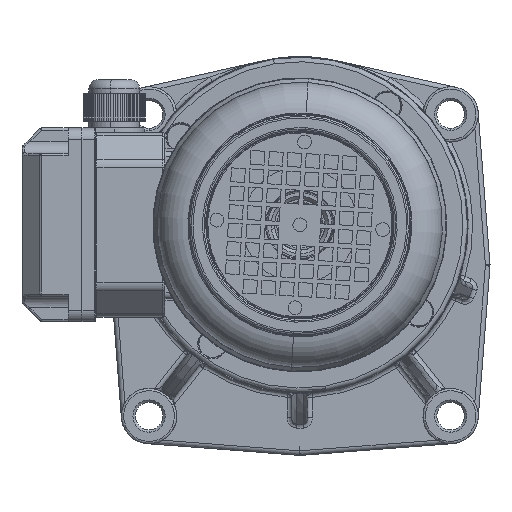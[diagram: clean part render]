
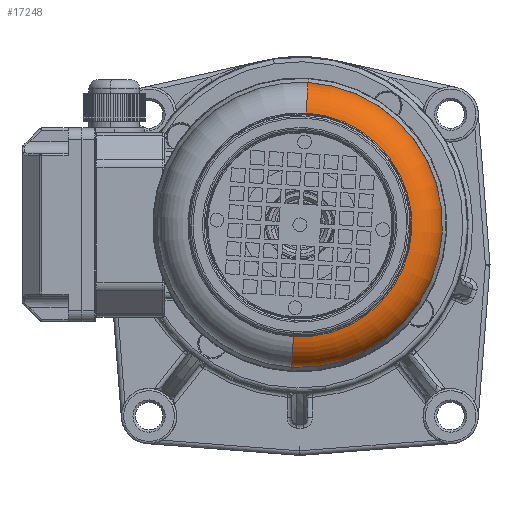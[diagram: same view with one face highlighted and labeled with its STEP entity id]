
A CAD part, front view. The second image highlights one B-rep face of the part: STEP entity #17248.
In plain terms, the highlighted toroidal (fillet/blend) face has major radius 46.75 mm and minor radius 15 mm.
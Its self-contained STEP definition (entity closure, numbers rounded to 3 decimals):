
#4262 = EDGE_CURVE ( 'NONE', #19937, #13596, #9568, .T. ) ;
#9568 = CIRCLE ( 'NONE', #38659, 48.591 ) ;
#10177 = DIRECTION ( 'NONE',  ( 0., 0., 1. ) ) ;
#12114 = EDGE_CURVE ( 'NONE', #86581, #90197, #98715, .T. ) ;
#13514 = DIRECTION ( 'NONE',  ( 0., 0., 1. ) ) ;
#13596 = VERTEX_POINT ( 'NONE', #74369 ) ;
#17248 = ADVANCED_FACE ( 'NONE', ( #46363 ), #51680, .T. ) ;
#19937 = VERTEX_POINT ( 'NONE', #21737 ) ;
#21600 = DIRECTION ( 'NONE',  ( 0., 0., 1. ) ) ;
#21737 = CARTESIAN_POINT ( 'NONE',  ( 11407.538, -26592.948, 48.591 ) ) ;
#24978 = DIRECTION ( 'NONE',  ( -1., 0., 0. ) ) ;
#27027 = CIRCLE ( 'NONE', #43197, 15. ) ;
#35654 = CARTESIAN_POINT ( 'NONE',  ( 11392.652, -26592.948, -61.75 ) ) ;
#38659 = AXIS2_PLACEMENT_3D ( 'NONE', #49243, #24978, #95749 ) ;
#43174 = EDGE_CURVE ( 'NONE', #13596, #90197, #57354, .T. ) ;
#43197 = AXIS2_PLACEMENT_3D ( 'NONE', #52908, #76132, #69521 ) ;
#46363 = FACE_OUTER_BOUND ( 'NONE', #72685, .T. ) ;
#48340 = ORIENTED_EDGE ( 'NONE', *, *, #12114, .F. ) ;
#49243 = CARTESIAN_POINT ( 'NONE',  ( 11407.538, -26592.948, 0. ) ) ;
#51680 = TOROIDAL_SURFACE ( 'NONE', #77494, 46.75, 15. ) ;
#52908 = CARTESIAN_POINT ( 'NONE',  ( 11392.652, -26592.948, 46.75 ) ) ;
#54794 = CARTESIAN_POINT ( 'NONE',  ( 11392.652, -26592.948, 61.75 ) ) ;
#55142 = AXIS2_PLACEMENT_3D ( 'NONE', #56219, #87052, #10177 ) ;
#56219 = CARTESIAN_POINT ( 'NONE',  ( 11392.652, -26592.948, 0. ) ) ;
#57354 = CIRCLE ( 'NONE', #89604, 15. ) ;
#61136 = ORIENTED_EDGE ( 'NONE', *, *, #4262, .T. ) ;
#69521 = DIRECTION ( 'NONE',  ( 0., 0., -1. ) ) ;
#72685 = EDGE_LOOP ( 'NONE', ( #61136, #99806, #48340, #84950 ) ) ;
#74369 = CARTESIAN_POINT ( 'NONE',  ( 11407.538, -26592.948, -48.591 ) ) ;
#76132 = DIRECTION ( 'NONE',  ( 0., -1., 0. ) ) ;
#77179 = DIRECTION ( 'NONE',  ( -1., 0., 0. ) ) ;
#77494 = AXIS2_PLACEMENT_3D ( 'NONE', #90885, #77179, #21600 ) ;
#84939 = EDGE_CURVE ( 'NONE', #19937, #86581, #27027, .T. ) ;
#84950 = ORIENTED_EDGE ( 'NONE', *, *, #84939, .F. ) ;
#85156 = CARTESIAN_POINT ( 'NONE',  ( 11392.652, -26592.948, -46.75 ) ) ;
#86581 = VERTEX_POINT ( 'NONE', #54794 ) ;
#87052 = DIRECTION ( 'NONE',  ( -1., 0., 0. ) ) ;
#89604 = AXIS2_PLACEMENT_3D ( 'NONE', #85156, #93762, #13514 ) ;
#90197 = VERTEX_POINT ( 'NONE', #35654 ) ;
#90885 = CARTESIAN_POINT ( 'NONE',  ( 11392.652, -26592.948, 0. ) ) ;
#93762 = DIRECTION ( 'NONE',  ( 0., 1., 0. ) ) ;
#95749 = DIRECTION ( 'NONE',  ( 0., 0., 1. ) ) ;
#98715 = CIRCLE ( 'NONE', #55142, 61.75 ) ;
#99806 = ORIENTED_EDGE ( 'NONE', *, *, #43174, .T. ) ;
